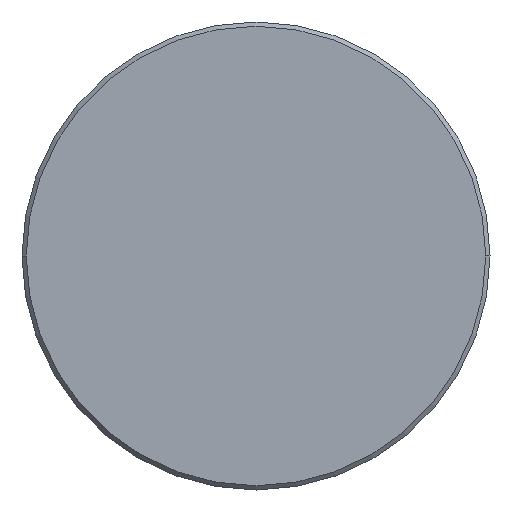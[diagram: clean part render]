
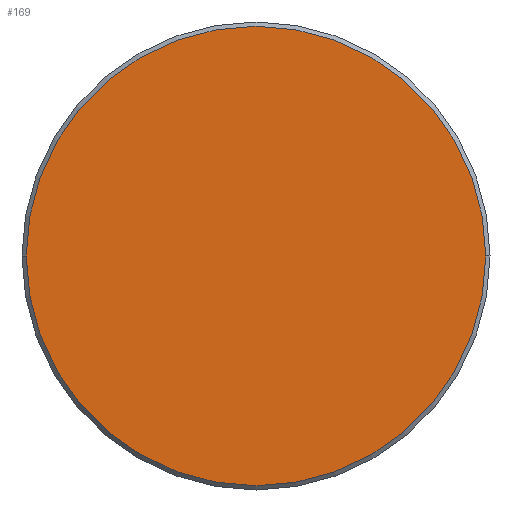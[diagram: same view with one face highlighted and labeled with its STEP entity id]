
A CAD part, left-side view. The second image highlights one B-rep face of the part: STEP entity #169.
In plain terms, the highlighted planar face has unit normal (-1, 0, 0).
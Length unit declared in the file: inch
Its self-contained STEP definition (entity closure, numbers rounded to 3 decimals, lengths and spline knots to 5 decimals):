
#3 = CIRCLE ( 'NONE', #134, 0.21475 ) ;
#7 = DIRECTION ( 'NONE',  ( -1., 0., 0. ) ) ;
#17 = CARTESIAN_POINT ( 'NONE',  ( 0., -0.21475, 0. ) ) ;
#38 = PLANE ( 'NONE',  #270 ) ;
#41 = DIRECTION ( 'NONE',  ( 0., -1., 0. ) ) ;
#56 = ORIENTED_EDGE ( 'NONE', *, *, #133, .T. ) ;
#74 = CARTESIAN_POINT ( 'NONE',  ( 0., 0., 0. ) ) ;
#133 = EDGE_CURVE ( 'NONE', #136, #241, #249, .T. ) ;
#134 = AXIS2_PLACEMENT_3D ( 'NONE', #74, #306, #163 ) ;
#136 = VERTEX_POINT ( 'NONE', #183 ) ;
#158 = DIRECTION ( 'NONE',  ( 0., -1., 0. ) ) ;
#163 = DIRECTION ( 'NONE',  ( 0., -1., 0. ) ) ;
#169 = ADVANCED_FACE ( 'NONE', ( #205 ), #38, .T. ) ;
#179 = AXIS2_PLACEMENT_3D ( 'NONE', #269, #7, #41 ) ;
#183 = CARTESIAN_POINT ( 'NONE',  ( 0., 0.21475, 0. ) ) ;
#205 = FACE_OUTER_BOUND ( 'NONE', #336, .T. ) ;
#207 = EDGE_CURVE ( 'NONE', #241, #136, #3, .T. ) ;
#241 = VERTEX_POINT ( 'NONE', #17 ) ;
#249 = CIRCLE ( 'NONE', #179, 0.21475 ) ;
#267 = ORIENTED_EDGE ( 'NONE', *, *, #207, .T. ) ;
#269 = CARTESIAN_POINT ( 'NONE',  ( 0., 0., 0. ) ) ;
#270 = AXIS2_PLACEMENT_3D ( 'NONE', #299, #325, #158 ) ;
#299 = CARTESIAN_POINT ( 'NONE',  ( 0., 0., 0. ) ) ;
#306 = DIRECTION ( 'NONE',  ( -1., 0., 0. ) ) ;
#325 = DIRECTION ( 'NONE',  ( -1., 0., 0. ) ) ;
#336 = EDGE_LOOP ( 'NONE', ( #56, #267 ) ) ;
